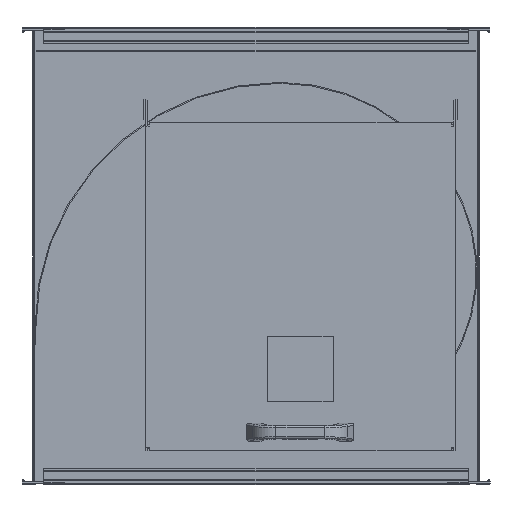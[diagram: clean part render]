
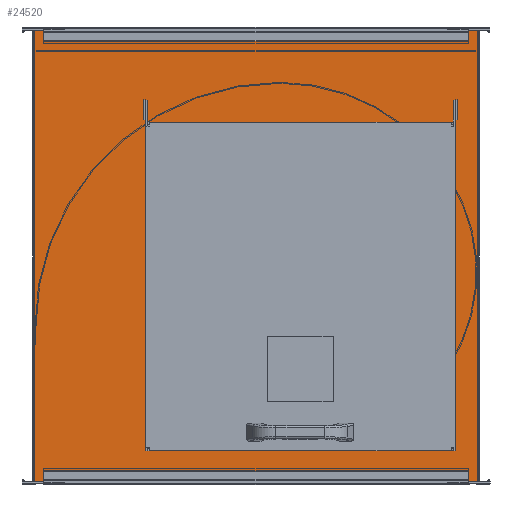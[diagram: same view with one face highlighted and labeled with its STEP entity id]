
A CAD part, front view. The second image highlights one B-rep face of the part: STEP entity #24520.
In plain terms, the highlighted planar face has unit normal (0, -1, 0).
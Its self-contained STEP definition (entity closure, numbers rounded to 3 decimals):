
#927=FACE_BOUND('',#3827,.T.);
#928=FACE_BOUND('',#3828,.T.);
#929=FACE_BOUND('',#3829,.T.);
#930=FACE_BOUND('',#3830,.T.);
#2559=FACE_OUTER_BOUND('',#3826,.T.);
#3826=EDGE_LOOP('',(#21351,#21352,#21353,#21354,#21355,#21356,#21357,#21358));
#3827=EDGE_LOOP('',(#21359,#21360,#21361,#21362));
#3828=EDGE_LOOP('',(#21363,#21364,#21365,#21366));
#3829=EDGE_LOOP('',(#21367,#21368,#21369,#21370));
#3830=EDGE_LOOP('',(#21371,#21372,#21373,#21374));
#3956=LINE('',#31290,#6565);
#3960=LINE('',#31298,#6569);
#3963=LINE('',#31304,#6572);
#3967=LINE('',#31311,#6576);
#4475=LINE('',#32636,#7084);
#4764=LINE('',#33328,#7373);
#4775=LINE('',#33361,#7384);
#4804=LINE('',#33425,#7413);
#4806=LINE('',#33428,#7415);
#4923=LINE('',#33697,#7532);
#5264=LINE('',#34491,#7873);
#5275=LINE('',#34524,#7884);
#5304=LINE('',#34588,#7913);
#5306=LINE('',#34591,#7915);
#5526=LINE('',#35092,#8135);
#5530=LINE('',#35100,#8139);
#5533=LINE('',#35106,#8142);
#5537=LINE('',#35113,#8146);
#5541=LINE('',#35122,#8150);
#5546=LINE('',#35130,#8155);
#5561=LINE('',#35158,#8170);
#5562=LINE('',#35161,#8171);
#5567=LINE('',#35168,#8176);
#5638=LINE('',#35617,#8247);
#6565=VECTOR('',#25997,10.);
#6569=VECTOR('',#26003,10.);
#6572=VECTOR('',#26008,10.);
#6576=VECTOR('',#26016,10.);
#7084=VECTOR('',#27124,10.);
#7373=VECTOR('',#27803,10.);
#7384=VECTOR('',#27838,10.);
#7413=VECTOR('',#27921,10.);
#7415=VECTOR('',#27925,10.);
#7532=VECTOR('',#28152,10.);
#7873=VECTOR('',#28879,10.);
#7884=VECTOR('',#28914,10.);
#7913=VECTOR('',#28997,10.);
#7915=VECTOR('',#29001,10.);
#8135=VECTOR('',#29515,10.);
#8139=VECTOR('',#29521,10.);
#8142=VECTOR('',#29526,10.);
#8146=VECTOR('',#29534,10.);
#8150=VECTOR('',#29542,10.);
#8155=VECTOR('',#29549,10.);
#8170=VECTOR('',#29572,10.);
#8171=VECTOR('',#29575,10.);
#8176=VECTOR('',#29582,10.);
#8247=VECTOR('',#29655,10.);
#9174=VERTEX_POINT('',#31288);
#9175=VERTEX_POINT('',#31289);
#9178=VERTEX_POINT('',#31297);
#9180=VERTEX_POINT('',#31303);
#9232=VERTEX_POINT('',#31416);
#9296=VERTEX_POINT('',#31548);
#9697=VERTEX_POINT('',#32633);
#9698=VERTEX_POINT('',#32635);
#9905=VERTEX_POINT('',#33325);
#9906=VERTEX_POINT('',#33327);
#9916=VERTEX_POINT('',#33360);
#10020=VERTEX_POINT('',#33694);
#10021=VERTEX_POINT('',#33696);
#10280=VERTEX_POINT('',#34488);
#10281=VERTEX_POINT('',#34490);
#10291=VERTEX_POINT('',#34523);
#10432=VERTEX_POINT('',#35090);
#10433=VERTEX_POINT('',#35091);
#10436=VERTEX_POINT('',#35099);
#10438=VERTEX_POINT('',#35105);
#10442=VERTEX_POINT('',#35121);
#10444=VERTEX_POINT('',#35128);
#10453=VERTEX_POINT('',#35156);
#10454=VERTEX_POINT('',#35160);
#11490=EDGE_CURVE('',#9174,#9175,#3956,.T.);
#11494=EDGE_CURVE('',#9178,#9174,#3960,.T.);
#11497=EDGE_CURVE('',#9180,#9178,#3963,.T.);
#11501=EDGE_CURVE('',#9175,#9180,#3967,.T.);
#12164=EDGE_CURVE('',#9698,#9697,#4475,.T.);
#12516=EDGE_CURVE('',#9906,#9905,#4764,.T.);
#12533=EDGE_CURVE('',#9916,#9232,#4775,.T.);
#12566=EDGE_CURVE('',#9905,#9698,#4804,.T.);
#12568=EDGE_CURVE('',#9906,#9697,#4806,.T.);
#12702=EDGE_CURVE('',#10021,#10020,#4923,.T.);
#13108=EDGE_CURVE('',#10281,#10280,#5264,.T.);
#13125=EDGE_CURVE('',#9296,#10291,#5275,.T.);
#13158=EDGE_CURVE('',#10280,#10021,#5304,.T.);
#13160=EDGE_CURVE('',#10281,#10020,#5306,.T.);
#13414=EDGE_CURVE('',#10432,#10433,#5526,.T.);
#13418=EDGE_CURVE('',#10436,#10432,#5530,.T.);
#13421=EDGE_CURVE('',#10438,#10436,#5533,.T.);
#13425=EDGE_CURVE('',#10433,#10438,#5537,.T.);
#13429=EDGE_CURVE('',#10442,#9916,#5541,.T.);
#13434=EDGE_CURVE('',#9232,#10444,#5546,.T.);
#13449=EDGE_CURVE('',#10453,#9296,#5561,.T.);
#13450=EDGE_CURVE('',#10291,#10454,#5562,.T.);
#13455=EDGE_CURVE('',#10442,#10453,#5567,.T.);
#13594=EDGE_CURVE('',#10454,#10444,#5638,.T.);
#21351=ORIENTED_EDGE('',*,*,#13594,.F.);
#21352=ORIENTED_EDGE('',*,*,#13450,.F.);
#21353=ORIENTED_EDGE('',*,*,#13125,.F.);
#21354=ORIENTED_EDGE('',*,*,#13449,.F.);
#21355=ORIENTED_EDGE('',*,*,#13455,.F.);
#21356=ORIENTED_EDGE('',*,*,#13429,.T.);
#21357=ORIENTED_EDGE('',*,*,#12533,.T.);
#21358=ORIENTED_EDGE('',*,*,#13434,.T.);
#21359=ORIENTED_EDGE('',*,*,#11494,.T.);
#21360=ORIENTED_EDGE('',*,*,#11490,.T.);
#21361=ORIENTED_EDGE('',*,*,#11501,.T.);
#21362=ORIENTED_EDGE('',*,*,#11497,.T.);
#21363=ORIENTED_EDGE('',*,*,#12516,.T.);
#21364=ORIENTED_EDGE('',*,*,#12566,.T.);
#21365=ORIENTED_EDGE('',*,*,#12164,.T.);
#21366=ORIENTED_EDGE('',*,*,#12568,.F.);
#21367=ORIENTED_EDGE('',*,*,#13108,.T.);
#21368=ORIENTED_EDGE('',*,*,#13158,.T.);
#21369=ORIENTED_EDGE('',*,*,#12702,.T.);
#21370=ORIENTED_EDGE('',*,*,#13160,.F.);
#21371=ORIENTED_EDGE('',*,*,#13418,.T.);
#21372=ORIENTED_EDGE('',*,*,#13414,.T.);
#21373=ORIENTED_EDGE('',*,*,#13425,.T.);
#21374=ORIENTED_EDGE('',*,*,#13421,.T.);
#22713=PLANE('',#25821);
#24520=ADVANCED_FACE('',(#2559,#927,#928,#929,#930),#22713,.F.);
#25821=AXIS2_PLACEMENT_3D('',#41066,#30658,#30659);
#25997=DIRECTION('',(0.,0.,1.));
#26003=DIRECTION('',(-1.,0.,0.));
#26008=DIRECTION('',(0.,0.,-1.));
#26016=DIRECTION('',(1.,0.,0.));
#27124=DIRECTION('',(0.,0.,1.));
#27803=DIRECTION('',(0.,0.,-1.));
#27838=DIRECTION('',(-1.,0.,0.));
#27921=DIRECTION('',(-1.,0.,0.));
#27925=DIRECTION('',(-1.,0.,0.));
#28152=DIRECTION('',(0.,0.,-1.));
#28879=DIRECTION('',(0.,0.,1.));
#28914=DIRECTION('',(-1.,0.,0.));
#28997=DIRECTION('',(1.,0.,0.));
#29001=DIRECTION('',(1.,0.,0.));
#29515=DIRECTION('',(0.,0.,-1.));
#29521=DIRECTION('',(1.,0.,0.));
#29526=DIRECTION('',(0.,0.,1.));
#29534=DIRECTION('',(-1.,0.,0.));
#29542=DIRECTION('',(-1.,0.,0.));
#29549=DIRECTION('',(-1.,0.,0.));
#29572=DIRECTION('',(-1.,0.,0.));
#29575=DIRECTION('',(-1.,0.,0.));
#29582=DIRECTION('',(0.,0.,-1.));
#29655=DIRECTION('',(0.,0.,1.));
#30658=DIRECTION('center_axis',(0.,1.,0.));
#30659=DIRECTION('ref_axis',(0.,0.,1.));
#31288=CARTESIAN_POINT('',(625.95,16.769,576.5));
#31289=CARTESIAN_POINT('',(625.95,16.769,608.5));
#31290=CARTESIAN_POINT('',(625.95,16.769,451.126));
#31297=CARTESIAN_POINT('',(628.95,16.769,576.5));
#31298=CARTESIAN_POINT('',(503.95,16.769,576.5));
#31303=CARTESIAN_POINT('',(628.95,16.769,608.5));
#31304=CARTESIAN_POINT('',(628.95,16.769,451.126));
#31311=CARTESIAN_POINT('',(503.95,16.769,608.5));
#31416=CARTESIAN_POINT('',(-25.65,16.769,722.));
#31548=CARTESIAN_POINT('',(646.35,16.769,0.));
#32633=CARTESIAN_POINT('',(-25.65,16.769,715.233));
#32635=CARTESIAN_POINT('',(-25.65,16.769,702.936));
#32636=CARTESIAN_POINT('',(-25.65,16.769,520.388));
#33325=CARTESIAN_POINT('',(646.35,16.769,702.936));
#33327=CARTESIAN_POINT('',(646.35,16.769,715.233));
#33328=CARTESIAN_POINT('',(646.35,16.769,520.388));
#33360=CARTESIAN_POINT('',(646.35,16.769,722.));
#33361=CARTESIAN_POINT('',(658.95,16.769,722.));
#33425=CARTESIAN_POINT('',(646.35,16.769,702.936));
#33428=CARTESIAN_POINT('',(646.35,16.769,715.233));
#33694=CARTESIAN_POINT('',(646.35,16.769,6.767));
#33696=CARTESIAN_POINT('',(646.35,16.769,19.064));
#33697=CARTESIAN_POINT('',(646.35,16.769,166.365));
#34488=CARTESIAN_POINT('',(-25.65,16.769,19.064));
#34490=CARTESIAN_POINT('',(-25.65,16.769,6.767));
#34491=CARTESIAN_POINT('',(-25.65,16.769,166.365));
#34523=CARTESIAN_POINT('',(-25.65,16.769,0.));
#34524=CARTESIAN_POINT('',(658.95,16.769,0.));
#34588=CARTESIAN_POINT('',(-25.65,16.769,19.064));
#34591=CARTESIAN_POINT('',(-25.65,16.769,6.767));
#35090=CARTESIAN_POINT('',(134.95,16.769,608.5));
#35091=CARTESIAN_POINT('',(134.95,16.769,576.5));
#35092=CARTESIAN_POINT('',(134.95,16.769,467.126));
#35099=CARTESIAN_POINT('',(131.95,16.769,608.5));
#35100=CARTESIAN_POINT('',(256.95,16.769,608.5));
#35105=CARTESIAN_POINT('',(131.95,16.769,576.5));
#35106=CARTESIAN_POINT('',(131.95,16.769,467.126));
#35113=CARTESIAN_POINT('',(256.95,16.769,576.5));
#35121=CARTESIAN_POINT('',(661.95,16.769,722.));
#35122=CARTESIAN_POINT('',(658.95,16.769,722.));
#35128=CARTESIAN_POINT('',(-41.25,16.769,722.));
#35130=CARTESIAN_POINT('',(658.95,16.769,722.));
#35156=CARTESIAN_POINT('',(661.95,16.769,0.));
#35158=CARTESIAN_POINT('',(658.95,16.769,0.));
#35160=CARTESIAN_POINT('',(-41.25,16.769,0.));
#35161=CARTESIAN_POINT('',(658.95,16.769,0.));
#35168=CARTESIAN_POINT('',(661.95,16.769,0.));
#35617=CARTESIAN_POINT('',(-41.25,16.769,0.));
#41066=CARTESIAN_POINT('Origin',(380.45,16.769,325.752));
